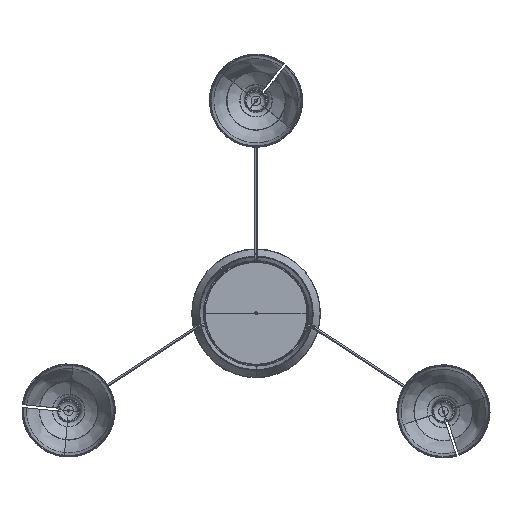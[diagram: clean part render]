
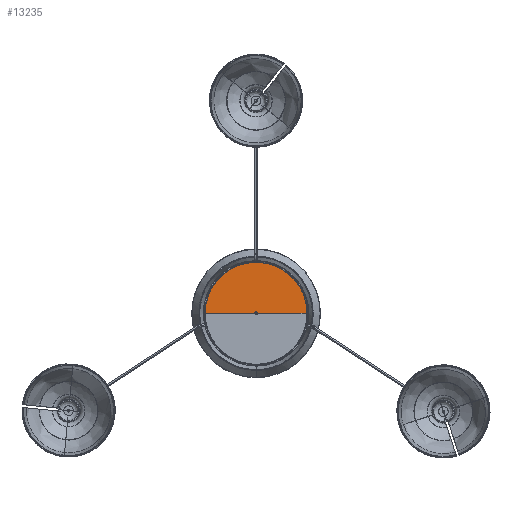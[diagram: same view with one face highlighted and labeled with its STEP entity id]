
A CAD part, top view. The second image highlights one B-rep face of the part: STEP entity #13235.
In plain terms, the highlighted planar face has unit normal (0, 0, 1).
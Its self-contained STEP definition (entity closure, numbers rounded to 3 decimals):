
#680=PLANE('',#14342);
#1145=LINE('',#34979,#1724);
#1724=VECTOR('',#16974,304.8);
#2393=CIRCLE('',#14343,108.233);
#3267=FACE_OUTER_BOUND('',#4108,.T.);
#4108=EDGE_LOOP('',(#11541,#11542));
#6096=VERTEX_POINT('',#34976);
#6097=VERTEX_POINT('',#34977);
#7961=EDGE_CURVE('',#6097,#6096,#1145,.T.);
#7962=EDGE_CURVE('',#6097,#6096,#2393,.T.);
#11541=ORIENTED_EDGE('',*,*,#7962,.F.);
#11542=ORIENTED_EDGE('',*,*,#7961,.T.);
#13235=ADVANCED_FACE('',(#3267),#680,.T.);
#14342=AXIS2_PLACEMENT_3D('',#34980,#16975,#16976);
#14343=AXIS2_PLACEMENT_3D('',#34981,#16977,#16978);
#16974=DIRECTION('',(1.,0.,0.));
#16975=DIRECTION('center_axis',(0.,0.,1.));
#16976=DIRECTION('ref_axis',(1.,0.,0.));
#16977=DIRECTION('center_axis',(0.,0.,-1.));
#16978=DIRECTION('ref_axis',(0.809,0.588,0.));
#34976=CARTESIAN_POINT('',(108.233,0.,23.91));
#34977=CARTESIAN_POINT('',(-108.233,0.,23.91));
#34979=CARTESIAN_POINT('',(3.,0.,23.91));
#34980=CARTESIAN_POINT('Origin',(0.,0.,
23.91));
#34981=CARTESIAN_POINT('Origin',(0.,0.,
23.91));
